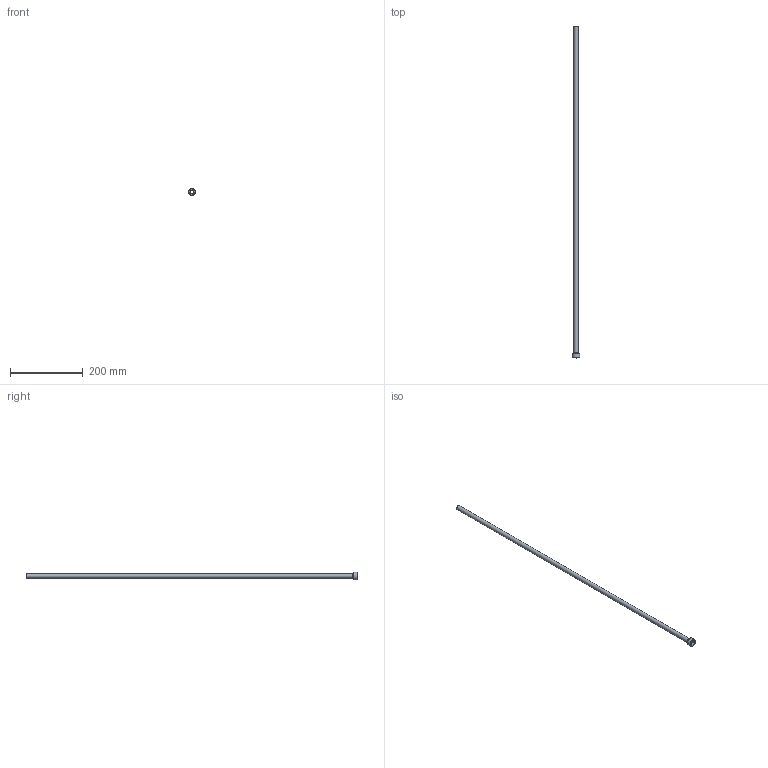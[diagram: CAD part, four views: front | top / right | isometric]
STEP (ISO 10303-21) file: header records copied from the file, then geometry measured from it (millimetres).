
FILE_DESCRIPTION(/* description */ (''),/* implementation_level */ '2;1');
FILE_NAME(/* name */ 'C:/Users/drich/Desktop/PT12-500-36 v1.step',/* time_stamp */ '2019-12-27T14:58:59-06:00',/* author */ (''),/* organization */ (''),/* preprocessor_version */ 'ST-DEVELOPER v18',/* originating_system */ 'Autodesk Translation Framework v8.12.0.6',/* authorisation */ '');
FILE_SCHEMA (('AUTOMOTIVE_DESIGN { 1 0 10303 214 3 1 1 }'));
Length unit declared in the file: inch
Products named in the file (1): PT12-500-36
Bounding box: 20.81 x 914.4 x 20.81 mm (x, y, z)
Volume: 26973.6 mm3; surface area: 69712.8 mm2
Topology: 1 solids, 1 shells, 19 faces, 48 edges, 34 vertices
Faces by surface type: plane 11, cylinder 4, torus 2, cone 2
Full cylindrical faces by diameter (mm): 11.278 x1, 12.7 x1, 15.85 x1, 20.813 x1
Entity records: 633 total; most frequent: DIRECTION 112, CARTESIAN_POINT 102, ORIENTED_EDGE 96, EDGE_CURVE 48, AXIS2_PLACEMENT_3D 44, VERTEX_POINT 34, CIRCLE 24, EDGE_LOOP 24
